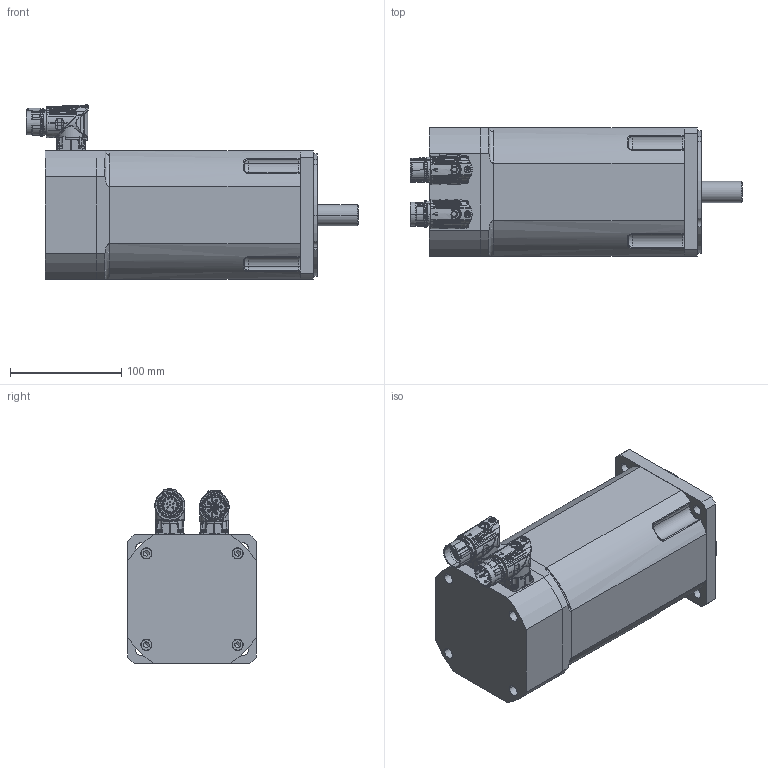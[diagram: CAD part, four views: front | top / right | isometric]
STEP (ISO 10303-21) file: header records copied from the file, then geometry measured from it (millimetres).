
FILE_DESCRIPTION(('CATIA V5 STEP Exchange'),'2;1');
FILE_NAME('E:\documenti\sangallimotori\sangallimotori\dwg\tg4\file catia\tipo43\albero liscio\motore_DSM5_43_albero_liscio_01.stp','2013-02-07T21:48:20+00:00',('none'),('none'),'CATIA Version 5 Release 18 GA (IN-10)','CATIA V5 STEP AP203','none');
FILE_SCHEMA(('CONFIG_CONTROL_DESIGN'));
Products named in the file (3): motore_DSM5_43_albero_liscio; Baugruppe1; 111136-B-Winkeldose  Sp
Assembly tree (27 placements, depth 3):
  motore_DSM5_43_albero_liscio
    #56
    #1547
    #2220
    #4349
    #5847
    #6141  x8
    Baugruppe1
      #7120
      #106200
    111136-B-Winkeldose  Sp
      #137000
      #106200
    #218809  x8
Bounding box: 297.81 x 115 x 156.43 mm (x, y, z)
Volume: 2863144.5 mm3; surface area: 234799.6 mm2
Topology: 23 solids, 28 shells, 4109 faces, 13929 edges, 9838 vertices
Faces by surface type: cylinder 1490, bspline 1327, plane 590, torus 360, cone 233, sphere 109
Entity records: 218708 total; most frequent: CARTESIAN_POINT 141166, ORIENTED_EDGE 21996, EDGE_CURVE 11055, VERTEX_POINT 7902, DIRECTION 7544, B_SPLINE_CURVE_WITH_KNOTS 6839, AXIS2_PLACEMENT_3D 3758, EDGE_LOOP 3378
